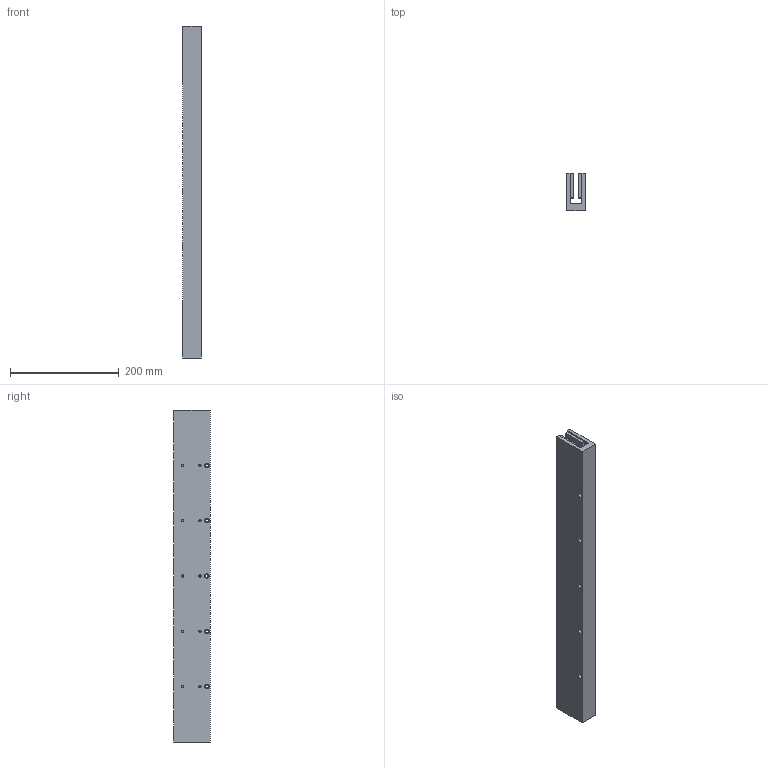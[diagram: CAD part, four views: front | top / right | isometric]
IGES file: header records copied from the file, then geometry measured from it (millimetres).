
Global section: file name: No Iges File Name specified; native system: Autodesk Inventor 2009; preprocessor: AutoDesk Inventor Iges Exporter R2009; author: je17857; date: 20091116.111509; units: inch
Bounding box: 34.29 x 67.31 x 609.6 mm (x, y, z)
Volume: 912952.8 mm3; surface area: 229553.9 mm2
Topology: 1 solids, 1 shells, 298 faces, 714 edges, 476 vertices
Faces by surface type: plane 218, bspline 80
